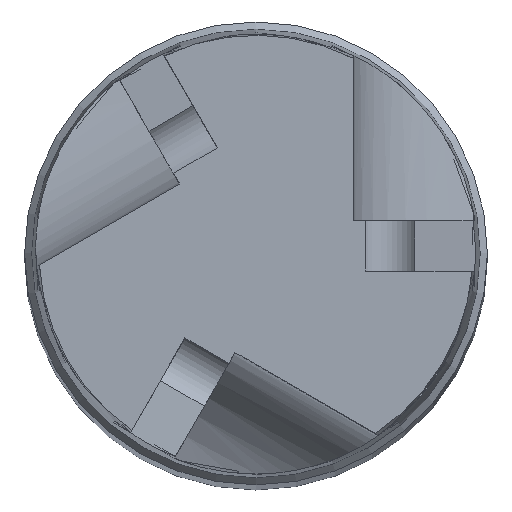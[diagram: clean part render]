
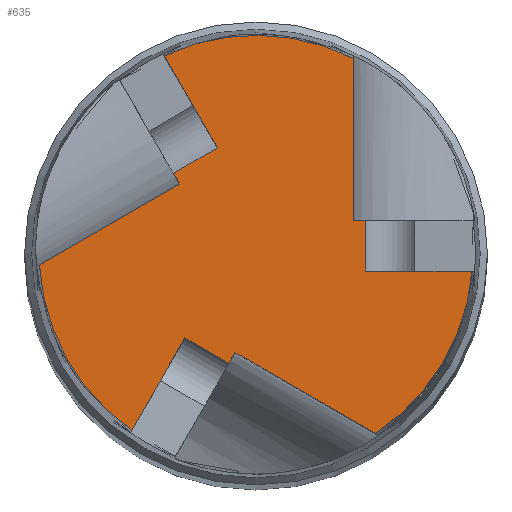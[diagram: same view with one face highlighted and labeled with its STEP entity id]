
A CAD part, top view. The second image highlights one B-rep face of the part: STEP entity #635.
In plain terms, the highlighted planar face has unit normal (0, 0, 1).
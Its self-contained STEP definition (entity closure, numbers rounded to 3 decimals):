
#42=PLANE('',#697);
#65=FACE_OUTER_BOUND('',#97,.T.);
#97=EDGE_LOOP('',(#476,#477,#478,#479,#480,#481,#482,#483,#484,#485,#486,
#487,#488,#489,#490));
#128=LINE('',#1004,#174);
#135=LINE('',#1023,#181);
#137=LINE('',#1033,#183);
#138=LINE('',#1040,#184);
#141=LINE('',#1073,#187);
#148=LINE('',#1092,#194);
#150=LINE('',#1102,#196);
#151=LINE('',#1109,#197);
#153=LINE('',#1136,#199);
#154=LINE('',#1138,#200);
#155=LINE('',#1140,#201);
#156=LINE('',#1142,#202);
#174=VECTOR('',#747,10.);
#181=VECTOR('',#766,10.);
#183=VECTOR('',#772,10.);
#184=VECTOR('',#775,10.);
#187=VECTOR('',#782,10.);
#194=VECTOR('',#801,10.);
#196=VECTOR('',#807,10.);
#197=VECTOR('',#810,10.);
#199=VECTOR('',#818,10.);
#200=VECTOR('',#819,10.);
#201=VECTOR('',#820,10.);
#202=VECTOR('',#821,10.);
#227=CIRCLE('',#698,15.);
#228=CIRCLE('',#699,15.);
#229=CIRCLE('',#700,15.);
#252=VERTEX_POINT('',#1001);
#253=VERTEX_POINT('',#1003);
#259=VERTEX_POINT('',#1021);
#262=VERTEX_POINT('',#1031);
#263=VERTEX_POINT('',#1035);
#267=VERTEX_POINT('',#1070);
#268=VERTEX_POINT('',#1072);
#274=VERTEX_POINT('',#1090);
#277=VERTEX_POINT('',#1100);
#278=VERTEX_POINT('',#1104);
#280=VERTEX_POINT('',#1133);
#281=VERTEX_POINT('',#1135);
#282=VERTEX_POINT('',#1137);
#283=VERTEX_POINT('',#1139);
#284=VERTEX_POINT('',#1141);
#317=EDGE_CURVE('',#253,#252,#128,.T.);
#327=EDGE_CURVE('',#259,#253,#135,.T.);
#331=EDGE_CURVE('',#252,#262,#137,.T.);
#333=EDGE_CURVE('',#262,#263,#138,.T.);
#338=EDGE_CURVE('',#268,#267,#141,.T.);
#348=EDGE_CURVE('',#274,#268,#148,.T.);
#352=EDGE_CURVE('',#267,#277,#150,.T.);
#354=EDGE_CURVE('',#277,#278,#151,.T.);
#357=EDGE_CURVE('',#280,#263,#227,.T.);
#358=EDGE_CURVE('',#280,#281,#153,.T.);
#359=EDGE_CURVE('',#281,#282,#154,.T.);
#360=EDGE_CURVE('',#282,#283,#155,.T.);
#361=EDGE_CURVE('',#283,#284,#156,.T.);
#362=EDGE_CURVE('',#274,#284,#228,.T.);
#363=EDGE_CURVE('',#259,#278,#229,.T.);
#476=ORIENTED_EDGE('',*,*,#327,.T.);
#477=ORIENTED_EDGE('',*,*,#317,.T.);
#478=ORIENTED_EDGE('',*,*,#331,.T.);
#479=ORIENTED_EDGE('',*,*,#333,.T.);
#480=ORIENTED_EDGE('',*,*,#357,.F.);
#481=ORIENTED_EDGE('',*,*,#358,.T.);
#482=ORIENTED_EDGE('',*,*,#359,.T.);
#483=ORIENTED_EDGE('',*,*,#360,.T.);
#484=ORIENTED_EDGE('',*,*,#361,.T.);
#485=ORIENTED_EDGE('',*,*,#362,.F.);
#486=ORIENTED_EDGE('',*,*,#348,.T.);
#487=ORIENTED_EDGE('',*,*,#338,.T.);
#488=ORIENTED_EDGE('',*,*,#352,.T.);
#489=ORIENTED_EDGE('',*,*,#354,.T.);
#490=ORIENTED_EDGE('',*,*,#363,.F.);
#635=ADVANCED_FACE('',(#65),#42,.T.);
#697=AXIS2_PLACEMENT_3D('',#1132,#814,#815);
#698=AXIS2_PLACEMENT_3D('',#1134,#816,#817);
#699=AXIS2_PLACEMENT_3D('',#1143,#822,#823);
#700=AXIS2_PLACEMENT_3D('',#1144,#824,#825);
#747=DIRECTION('',(0.866,-0.5,0.));
#766=DIRECTION('',(0.5,0.866,0.));
#772=DIRECTION('',(0.5,0.866,0.));
#775=DIRECTION('',(0.866,-0.5,0.));
#782=DIRECTION('',(-0.866,-0.5,0.));
#801=DIRECTION('',(0.5,-0.866,0.));
#807=DIRECTION('',(0.5,-0.866,0.));
#810=DIRECTION('',(-0.866,-0.5,0.));
#814=DIRECTION('center_axis',(0.,0.,1.));
#815=DIRECTION('ref_axis',(1.,0.,0.));
#816=DIRECTION('center_axis',(0.,0.,-1.));
#817=DIRECTION('ref_axis',(1.,0.,0.));
#818=DIRECTION('',(-1.,0.,0.));
#819=DIRECTION('',(0.,1.,0.));
#820=DIRECTION('',(-1.,0.,0.));
#821=DIRECTION('',(0.,1.,0.));
#822=DIRECTION('center_axis',(0.,0.,-1.));
#823=DIRECTION('ref_axis',(1.,0.,0.));
#824=DIRECTION('center_axis',(0.,0.,-1.));
#825=DIRECTION('ref_axis',(1.,0.,0.));
#1001=CARTESIAN_POINT('',(-1.883,-7.672,0.));
#1003=CARTESIAN_POINT('',(-4.914,-5.922,0.));
#1004=CARTESIAN_POINT('',(-6.086,-5.246,0.));
#1021=CARTESIAN_POINT('',(-8.593,-12.294,0.));
#1023=CARTESIAN_POINT('',(-0.186,2.268,0.));
#1031=CARTESIAN_POINT('',(-1.453,-6.926,0.));
#1033=CARTESIAN_POINT('',(2.256,-0.503,0.));
#1035=CARTESIAN_POINT('',(8.25,-12.528,0.));
#1040=CARTESIAN_POINT('',(-5.655,-4.5,0.));
#1070=CARTESIAN_POINT('',(-5.703,5.467,0.));
#1072=CARTESIAN_POINT('',(-2.672,7.217,0.));
#1073=CARTESIAN_POINT('',(-1.5,7.893,0.));
#1090=CARTESIAN_POINT('',(-6.351,13.589,0.));
#1092=CARTESIAN_POINT('',(-4.438,10.277,0.));
#1100=CARTESIAN_POINT('',(-5.272,4.721,0.));
#1102=CARTESIAN_POINT('',(-8.059,9.548,0.));
#1104=CARTESIAN_POINT('',(-14.974,-0.88,0.));
#1109=CARTESIAN_POINT('',(-1.07,7.147,0.));
#1132=CARTESIAN_POINT('Origin',(0.,15.,0.));
#1133=CARTESIAN_POINT('',(14.944,-1.295,0.));
#1134=CARTESIAN_POINT('Origin',(0.,0.,0.));
#1135=CARTESIAN_POINT('',(7.586,-1.295,0.));
#1136=CARTESIAN_POINT('',(4.624,-1.295,0.));
#1137=CARTESIAN_POINT('',(7.586,2.205,0.));
#1138=CARTESIAN_POINT('',(7.586,8.603,0.));
#1139=CARTESIAN_POINT('',(6.725,2.205,0.));
#1140=CARTESIAN_POINT('',(5.803,2.205,0.));
#1141=CARTESIAN_POINT('',(6.725,13.408,0.));
#1142=CARTESIAN_POINT('',(6.725,8.603,0.));
#1143=CARTESIAN_POINT('Origin',(0.,0.,0.));
#1144=CARTESIAN_POINT('Origin',(0.,0.,0.));
